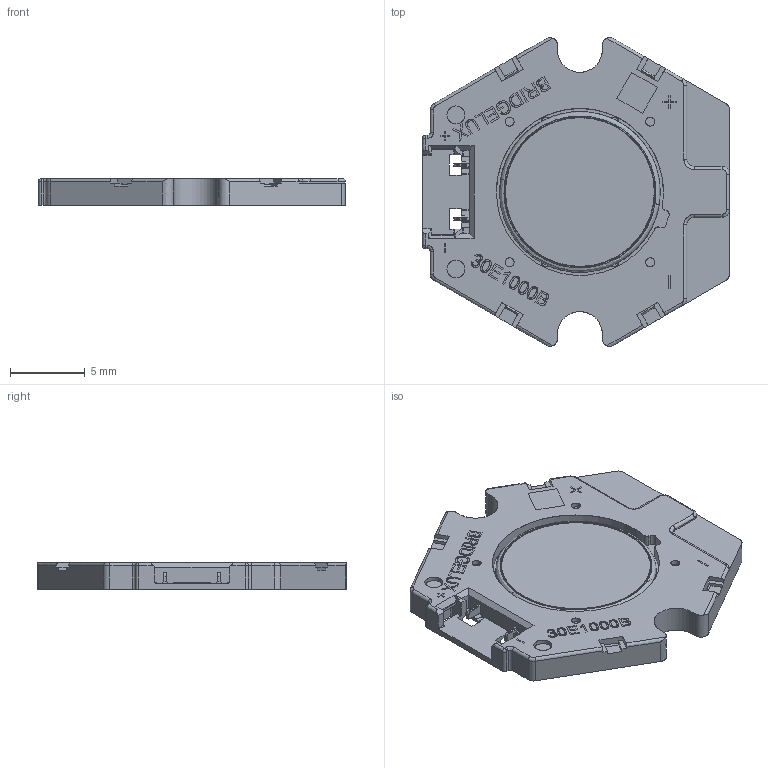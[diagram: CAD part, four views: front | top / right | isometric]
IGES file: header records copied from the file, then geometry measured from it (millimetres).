
Start section: SolidWorks IGES file using analytic representation for surfaces
Global section: file name: D:\Users\5160206\Desktop\3D document\GEN8\Assembly\Vero10\Vero\GEN8 Vero10.IGS; native system: SolidWorks 2018; preprocessor: SolidWorks 2018; author: 5160206; date: 200912.161954; units: millimetre
Bounding box: 20.52 x 20.63 x 1.8 mm (x, y, z)
Surface area: 1086.5 mm2 (no closed solid volume)
Topology: 0 solids, 0 shells, 811 faces, 7153 edges, 7141 vertices
Faces by surface type: bspline 581, revolution 230
